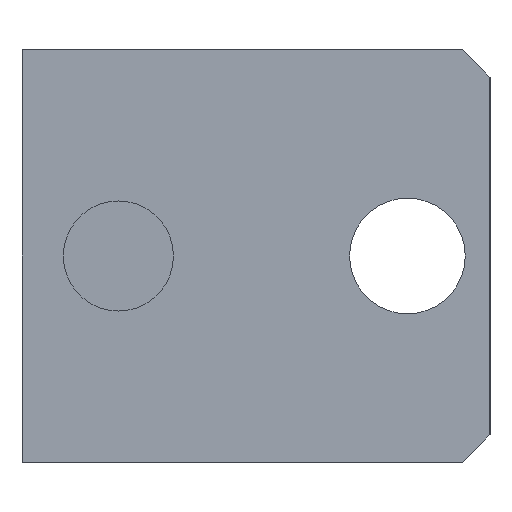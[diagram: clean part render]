
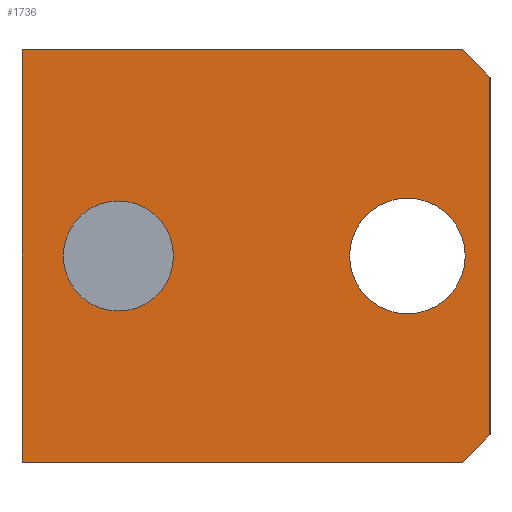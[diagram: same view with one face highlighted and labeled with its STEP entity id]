
A CAD part, left-side view. The second image highlights one B-rep face of the part: STEP entity #1736.
In plain terms, the highlighted planar face has unit normal (-1, 0, 0).
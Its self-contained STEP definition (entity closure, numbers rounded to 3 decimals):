
#45 = EDGE_CURVE ( 'NONE', #459, #3190, #2208, .T. ) ;
#61 = EDGE_CURVE ( 'NONE', #3190, #2171, #469, .T. ) ;
#94 = EDGE_CURVE ( 'NONE', #1209, #2164, #1372, .T. ) ;
#98 = VECTOR ( 'NONE', #192, 1000. ) ;
#127 = CARTESIAN_POINT ( 'NONE',  ( -29.5, -7., 7.5 ) ) ;
#153 = ORIENTED_EDGE ( 'NONE', *, *, #2501, .T. ) ;
#192 = DIRECTION ( 'NONE',  ( 0., -1., 0. ) ) ;
#257 = CIRCLE ( 'NONE', #3132, 2.1 ) ;
#331 = CIRCLE ( 'NONE', #1839, 2. ) ;
#342 = EDGE_LOOP ( 'NONE', ( #2609, #421 ) ) ;
#349 = ORIENTED_EDGE ( 'NONE', *, *, #2276, .T. ) ;
#421 = ORIENTED_EDGE ( 'NONE', *, *, #3350, .F. ) ;
#447 = VERTEX_POINT ( 'NONE', #985 ) ;
#459 = VERTEX_POINT ( 'NONE', #1406 ) ;
#469 = LINE ( 'NONE', #2342, #98 ) ;
#562 = LINE ( 'NONE', #2167, #1264 ) ;
#587 = ORIENTED_EDGE ( 'NONE', *, *, #1681, .F. ) ;
#699 = CARTESIAN_POINT ( 'NONE',  ( -29.5, 6.5, 0. ) ) ;
#701 = DIRECTION ( 'NONE',  ( 0., 0., 1. ) ) ;
#802 = ORIENTED_EDGE ( 'NONE', *, *, #3227, .T. ) ;
#846 = AXIS2_PLACEMENT_3D ( 'NONE', #3370, #1947, #2409 ) ;
#848 = CARTESIAN_POINT ( 'NONE',  ( -29.5, 8., 7.5 ) ) ;
#900 = FACE_BOUND ( 'NONE', #342, .T. ) ;
#904 = VERTEX_POINT ( 'NONE', #1443 ) ;
#933 = ORIENTED_EDGE ( 'NONE', *, *, #61, .F. ) ;
#963 = CARTESIAN_POINT ( 'NONE',  ( -29.5, -6., -7.5 ) ) ;
#985 = CARTESIAN_POINT ( 'NONE',  ( -29.5, -7., 6.5 ) ) ;
#1004 = CARTESIAN_POINT ( 'NONE',  ( -29.5, 10., 7.5 ) ) ;
#1005 = LINE ( 'NONE', #3157, #1098 ) ;
#1078 = EDGE_CURVE ( 'NONE', #2164, #1209, #257, .T. ) ;
#1098 = VECTOR ( 'NONE', #1279, 1000. ) ;
#1132 = VERTEX_POINT ( 'NONE', #3039 ) ;
#1137 = CARTESIAN_POINT ( 'NONE',  ( -29.5, -4., 2.1 ) ) ;
#1138 = LINE ( 'NONE', #1513, #2454 ) ;
#1155 = AXIS2_PLACEMENT_3D ( 'NONE', #699, #1561, #3362 ) ;
#1205 = CARTESIAN_POINT ( 'NONE',  ( -29.5, -7., -6.5 ) ) ;
#1208 = CIRCLE ( 'NONE', #1155, 2. ) ;
#1209 = VERTEX_POINT ( 'NONE', #2029 ) ;
#1235 = DIRECTION ( 'NONE',  ( -1., 0., 0. ) ) ;
#1264 = VECTOR ( 'NONE', #2678, 1000. ) ;
#1279 = DIRECTION ( 'NONE',  ( 0., 0.707, 0.707 ) ) ;
#1347 = EDGE_LOOP ( 'NONE', ( #349, #153, #587, #802, #933, #2985 ) ) ;
#1362 = DIRECTION ( 'NONE',  ( 0., 0., -1. ) ) ;
#1372 = CIRCLE ( 'NONE', #846, 2.1 ) ;
#1374 = ORIENTED_EDGE ( 'NONE', *, *, #94, .F. ) ;
#1406 = CARTESIAN_POINT ( 'NONE',  ( -29.5, 10., -7.5 ) ) ;
#1410 = CARTESIAN_POINT ( 'NONE',  ( -29.5, -4., 0. ) ) ;
#1433 = PLANE ( 'NONE',  #2613 ) ;
#1443 = CARTESIAN_POINT ( 'NONE',  ( -29.5, 6.5, 2. ) ) ;
#1487 = CARTESIAN_POINT ( 'NONE',  ( -29.5, 10., -7.5 ) ) ;
#1512 = CARTESIAN_POINT ( 'NONE',  ( -29.5, 6.5, 0. ) ) ;
#1513 = CARTESIAN_POINT ( 'NONE',  ( -29.5, -7., -6.5 ) ) ;
#1561 = DIRECTION ( 'NONE',  ( -1., 0., 0. ) ) ;
#1610 = FACE_BOUND ( 'NONE', #2544, .T. ) ;
#1681 = EDGE_CURVE ( 'NONE', #447, #1968, #2546, .T. ) ;
#1723 = DIRECTION ( 'NONE',  ( 0., 0., -1. ) ) ;
#1736 = ADVANCED_FACE ( 'NONE', ( #900, #1610, #2308 ), #1433, .F. ) ;
#1771 = VECTOR ( 'NONE', #1362, 1000. ) ;
#1839 = AXIS2_PLACEMENT_3D ( 'NONE', #1512, #1235, #2817 ) ;
#1914 = EDGE_CURVE ( 'NONE', #1132, #904, #331, .T. ) ;
#1919 = CARTESIAN_POINT ( 'NONE',  ( -29.5, -6., 7.5 ) ) ;
#1947 = DIRECTION ( 'NONE',  ( -1., 0., 0. ) ) ;
#1965 = DIRECTION ( 'NONE',  ( 1., 0., 0. ) ) ;
#1968 = VERTEX_POINT ( 'NONE', #1205 ) ;
#2029 = CARTESIAN_POINT ( 'NONE',  ( -29.5, -4., -2.1 ) ) ;
#2070 = DIRECTION ( 'NONE',  ( -1., 0., 0. ) ) ;
#2129 = DIRECTION ( 'NONE',  ( 0., 0., 1. ) ) ;
#2164 = VERTEX_POINT ( 'NONE', #1137 ) ;
#2167 = CARTESIAN_POINT ( 'NONE',  ( -29.5, 8., -7.5 ) ) ;
#2168 = VECTOR ( 'NONE', #701, 1000. ) ;
#2171 = VERTEX_POINT ( 'NONE', #1919 ) ;
#2208 = LINE ( 'NONE', #1487, #2168 ) ;
#2276 = EDGE_CURVE ( 'NONE', #459, #2552, #562, .T. ) ;
#2308 = FACE_OUTER_BOUND ( 'NONE', #1347, .T. ) ;
#2342 = CARTESIAN_POINT ( 'NONE',  ( -29.5, 8., 7.5 ) ) ;
#2409 = DIRECTION ( 'NONE',  ( 0., 0., 1. ) ) ;
#2454 = VECTOR ( 'NONE', #2820, 1000. ) ;
#2501 = EDGE_CURVE ( 'NONE', #2552, #1968, #1138, .T. ) ;
#2544 = EDGE_LOOP ( 'NONE', ( #3144, #1374 ) ) ;
#2546 = LINE ( 'NONE', #127, #1771 ) ;
#2552 = VERTEX_POINT ( 'NONE', #963 ) ;
#2609 = ORIENTED_EDGE ( 'NONE', *, *, #1914, .F. ) ;
#2613 = AXIS2_PLACEMENT_3D ( 'NONE', #848, #1965, #1723 ) ;
#2678 = DIRECTION ( 'NONE',  ( 0., -1., 0. ) ) ;
#2817 = DIRECTION ( 'NONE',  ( 0., 0., -1. ) ) ;
#2820 = DIRECTION ( 'NONE',  ( 0., -0.707, 0.707 ) ) ;
#2985 = ORIENTED_EDGE ( 'NONE', *, *, #45, .F. ) ;
#3039 = CARTESIAN_POINT ( 'NONE',  ( -29.5, 6.5, -2. ) ) ;
#3132 = AXIS2_PLACEMENT_3D ( 'NONE', #1410, #2070, #2129 ) ;
#3144 = ORIENTED_EDGE ( 'NONE', *, *, #1078, .F. ) ;
#3157 = CARTESIAN_POINT ( 'NONE',  ( -29.5, -7., 6.5 ) ) ;
#3190 = VERTEX_POINT ( 'NONE', #1004 ) ;
#3227 = EDGE_CURVE ( 'NONE', #447, #2171, #1005, .T. ) ;
#3350 = EDGE_CURVE ( 'NONE', #904, #1132, #1208, .T. ) ;
#3362 = DIRECTION ( 'NONE',  ( 0., 0., -1. ) ) ;
#3370 = CARTESIAN_POINT ( 'NONE',  ( -29.5, -4., 0. ) ) ;
